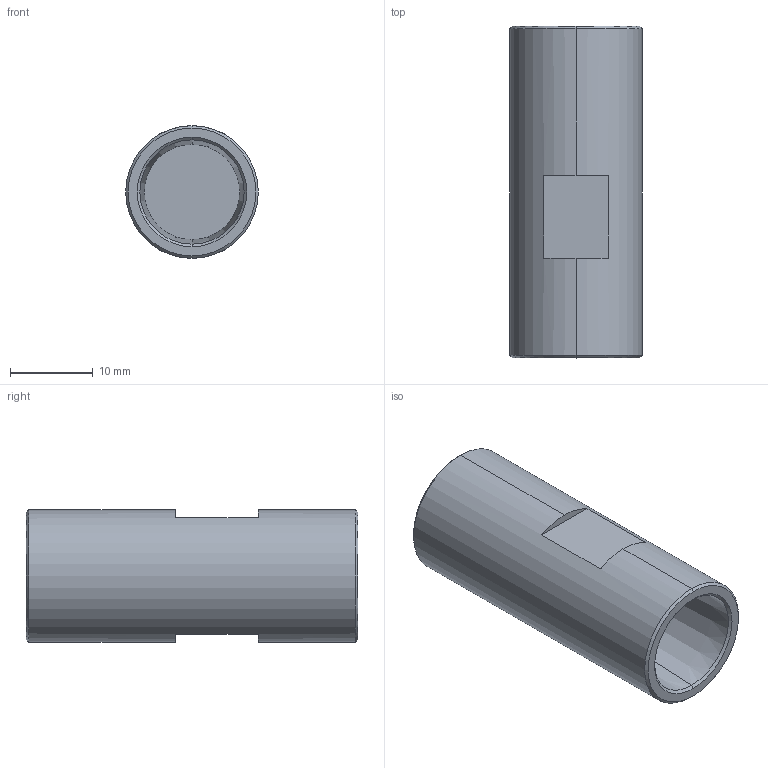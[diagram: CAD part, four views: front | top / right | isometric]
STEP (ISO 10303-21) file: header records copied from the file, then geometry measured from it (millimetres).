
FILE_DESCRIPTION (( 'STEP AP203' ), '1' );
FILE_NAME ('SW-PN-Y6.STEP', '2022-04-04T04:44:07', ( '' ), ( '' ), 'SwSTEP 2.0', 'SolidWorks 2015', '' );
FILE_SCHEMA (( 'CONFIG_CONTROL_DESIGN' ));
Length unit declared in the file: millimetre
Products named in the file (2): SW-PN-Y6
Bounding box: 16 x 40 x 16 mm (x, y, z)
Volume: 6110.6 mm3; surface area: 3175.7 mm2
Topology: 1 solids, 1 shells, 22 faces, 48 edges, 30 vertices
Faces by surface type: plane 10, cone 8, cylinder 4
Entity records: 765 total; most frequent: DIRECTION 122, CARTESIAN_POINT 102, ORIENTED_EDGE 96, AXIS2_PLACEMENT_3D 50, EDGE_CURVE 48, VERTEX_POINT 30, CIRCLE 26, EDGE_LOOP 24
